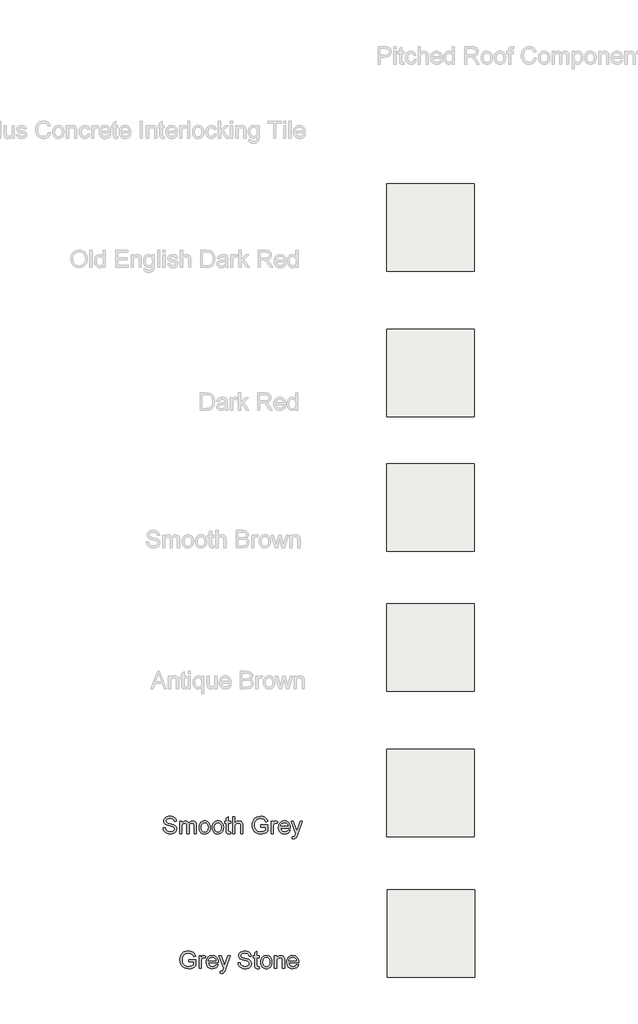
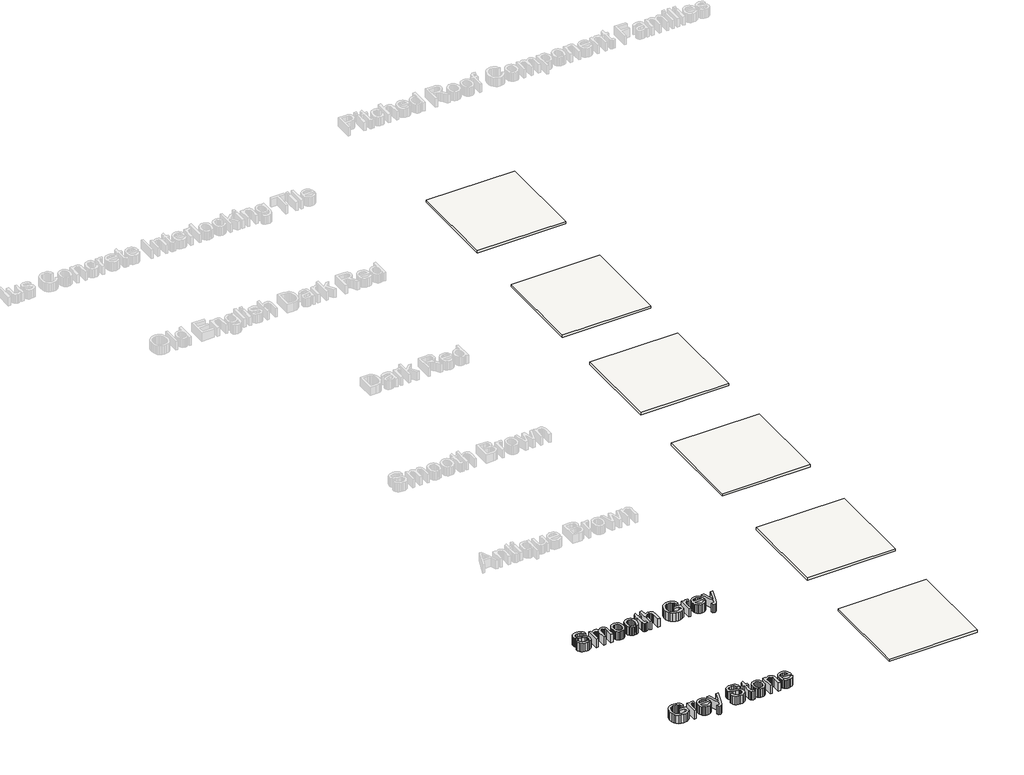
# One storey, part 1 of 5: 6 coverings, 2 proxies.
"""IFC4 building model written with IfcOpenShell, lengths in millimetres."""

from ifc_helpers import new_model, si_unit, frame, origin, place, context, project, spatial, polyline, outline, extrude, element, save

model = new_model("IFC4")

# Units and contexts
model_context = context("Model", 3, world=origin())
ifc_project = project(units=[si_unit("LENGTHUNIT", "METRE", prefix="MILLI")], contexts=[model_context])

# Site, building, storey
site = spatial("IfcSite", under=ifc_project)
building = spatial("IfcBuilding", under=site)
storey = spatial("IfcBuildingStorey", under=building, Name="Marley Concrete Interlocking Tile", Elevation=3000.0)

# Proxies
placement = place(None, origin())
element("IfcBuildingElementProxy", 1, Name="600mm Arial", ObjectType="600mm Arial", at=placement, inside=storey, context=model_context, shape_type="SweptSolid", body=[
    extrude(outline(polyline([(-15194.6531138, -5920.496364), (-15157.7300369, -5920.496364), (-15153.493258, -5940.9861476), (-15145.8309984, -5957.4554986), (-15133.8778734, -5970.5264121), (-15116.7684984, -5980.8208832), (-15095.8550369, -5987.5005707), (-15072.4896523, -5989.7271332), (-15051.9187388, -5988.0414361), (-15033.9079215, -5982.9843448), (-15019.3135705, -5974.9795371), (-15008.9920561, -5964.4506909), (-15002.853234, -5952.3623496), (-15000.80696, -5939.6790563), (-15002.3394119, -5927.3202823), (-15006.9367677, -5916.6381909), (-15016.27571, -5907.5246092), (-15032.0329215, -5899.871364), (-15085.7949407, -5885.7728063), (-15121.0864071, -5876.4428784), (-15143.6675369, -5867.5636717), (-15162.0479455, -5855.1417967), (-15175.0737869, -5840.0877101), (-15182.8352052, -5822.7259313), (-15185.4223446, -5803.3809794), (-15182.2222244, -5781.7553784), (-15172.6218638, -5761.590114), (-15156.8736667, -5744.4987678), (-15135.2300369, -5732.0949217), (-15109.2504696, -5724.5498496), (-15080.49446, -5722.0348255), (-15049.3406138, -5724.6670371), (-15022.0809984, -5732.5636717), (-14999.6891715, -5745.5624698), (-14983.1386907, -5763.5011717), (-14972.6639311, -5785.261989), (-14968.4992677, -5809.7271332), (-15005.4223446, -5809.7271332), (-15012.2011907, -5787.6958832), (-15026.3358061, -5771.7944409), (-15048.4211427, -5762.1670371), (-15079.0521523, -5758.9579025), (-15110.4043157, -5762.1309794), (-15131.9127292, -5771.6502101), (-15144.352633, -5785.6586236), (-15148.4992677, -5802.2992486), (-15145.5605657, -5816.4879505), (-15136.74446, -5827.9002101), (-15115.9031138, -5838.1045371), (-15076.4559984, -5848.5252101), (-15011.11946, -5867.058864), (-14990.0707821, -5880.4542967), (-14975.3862869, -5896.9867486), (-14966.759484, -5916.4759313), (-14963.883883, -5938.7415563), (-14967.1921763, -5961.5029746), (-14977.1170561, -5982.9122294), (-14993.2528734, -6001.3377101), (-15015.1939792, -6015.1478063), (-15041.5791955, -6023.7746092), (-15071.0473446, -6026.6502101), (-15107.2222244, -6023.5492486), (-15136.9968638, -6014.246364), (-15160.7138109, -5998.7054986), (-15178.7156138, -5976.8905948), (-15190.2721042, -5950.3160755), (-15194.6531138, -5920.496364)])), frame((0.0, 0.0, 3000.0), z_axis=(0.0, 0.0, 1.0), x_axis=(1.0, 0.0, 0.0)), (0.0, 0.0, 1.0), 150.0),
    extrude(outline(polyline([(-14913.1146523, -6022.0348255), (-14913.1146523, -5805.1117486), (-14876.1915753, -5805.1117486), (-14876.1915753, -5840.808864), (-14865.0858061, -5824.4116284), (-14850.80696, -5811.5660755), (-14833.8418157, -5803.2637919), (-14814.6771523, -5800.496364), (-14794.1422965, -5803.3178784), (-14777.68196, -5811.7824217), (-14765.3862869, -5825.3310996), (-14757.3454215, -5843.4050178), (-14743.8868878, -5824.6324818), (-14728.5353253, -5811.2235275), (-14711.290734, -5803.1781549), (-14692.1531138, -5800.496364), (-14664.3977052, -5804.9585034), (-14643.8718638, -5818.3449217), (-14631.1885705, -5841.0161957), (-14626.9608061, -5873.3329025), (-14626.9608061, -6022.0348255), (-14663.883883, -6022.0348255), (-14663.883883, -5889.1982871), (-14667.3093638, -5858.3689601), (-14672.1230657, -5849.8683592), (-14679.71321, -5843.1886717), (-14689.4758302, -5838.8617486), (-14700.80696, -5837.4194409), (-14720.8099648, -5841.1153544), (-14737.1170561, -5852.2030948), (-14747.9614071, -5871.4398736), (-14751.5761907, -5899.5829025), (-14751.5761907, -6022.0348255), (-14788.4992677, -6022.0348255), (-14788.4992677, -5885.0877101), (-14790.6356859, -5864.2103063), (-14797.0449407, -5849.3184794), (-14808.321984, -5840.3942005), (-14825.0617677, -5837.4194409), (-14839.2865273, -5839.402614), (-14852.3934984, -5845.3521332), (-14863.2108061, -5855.1237678), (-14870.5665753, -5868.5732871), (-14874.7853253, -5887.2331428), (-14876.1915753, -5912.6357871), (-14876.1915753, -6022.0348255), (-14913.1146523, -6022.0348255)])), frame((0.0, 0.0, 3000.0), z_axis=(0.0, 0.0, 1.0), x_axis=(1.0, 0.0, 0.0)), (0.0, 0.0, 1.0), 150.0),
    extrude(outline(polyline([(-14580.80696, -5913.5732871), (-14578.8102652, -5885.4798376), (-14572.8201811, -5861.2716044), (-14562.8367076, -5840.9485876), (-14548.8598446, -5824.5107871), (-14534.7883302, -5814.004477), (-14519.2564792, -5806.4999698), (-14502.2642917, -5801.9972654), (-14483.8117677, -5800.496364), (-14463.4414251, -5802.3240383), (-14445.0227052, -5807.8070611), (-14428.5556078, -5816.9454325), (-14414.040133, -5829.7391525), (-14402.1929275, -5845.7555287), (-14393.7306378, -5864.5618688), (-14388.653264, -5886.1581729), (-14386.9608061, -5910.5444409), (-14389.9535946, -5947.8461236), (-14398.93196, -5976.2415563), (-14413.634484, -5997.5065803), (-14433.7997484, -6013.4170371), (-14457.7510705, -6023.3419169), (-14483.8117677, -6026.6502101), (-14504.4795862, -6024.8292967), (-14523.0695802, -6019.3665563), (-14539.5817496, -6010.261989), (-14554.0160946, -5997.5155948), (-14565.7370982, -5981.3437198), (-14574.1092436, -5961.9627101), (-14579.1325309, -5939.3725659), (-14580.80696, -5913.5732871)]), holes=[polyline([(-14543.883883, -5913.5011717), (-14539.6110465, -5946.917638), (-14526.7925369, -5970.7247294), (-14507.5016715, -5984.9765323), (-14483.8117677, -5989.7271332), (-14460.2300369, -5984.949489), (-14440.9752292, -5970.6165563), (-14428.1567196, -5946.4939601), (-14423.883883, -5912.3473255), (-14428.1837628, -5879.9044169), (-14441.0834023, -5856.4218448), (-14460.3652532, -5842.1700419), (-14483.8117677, -5837.4194409), (-14507.5016715, -5842.152013), (-14526.7925369, -5856.3497294), (-14539.6110465, -5880.1027342), (-14543.883883, -5913.5011717)])]), frame((0.0, 0.0, 3000.0), z_axis=(0.0, 0.0, 1.0), x_axis=(1.0, 0.0, 0.0)), (0.0, 0.0, 1.0), 150.0),
    extrude(outline(polyline([(-14354.6531138, -5913.5732871), (-14352.6564191, -5885.4798376), (-14346.666335, -5861.2716044), (-14336.6828614, -5840.9485876), (-14322.7059984, -5824.5107871), (-14308.634484, -5814.004477), (-14293.102633, -5806.4999698), (-14276.1104455, -5801.9972654), (-14257.6579215, -5800.496364), (-14237.287579, -5802.3240383), (-14218.868859, -5807.8070611), (-14202.4017616, -5816.9454325), (-14187.8862869, -5829.7391525), (-14176.0390814, -5845.7555287), (-14167.5767917, -5864.5618688), (-14162.4994179, -5886.1581729), (-14160.80696, -5910.5444409), (-14163.7997484, -5947.8461236), (-14172.7781138, -5976.2415563), (-14187.4806378, -5997.5065803), (-14207.6459023, -6013.4170371), (-14231.5972244, -6023.3419169), (-14257.6579215, -6026.6502101), (-14278.32574, -6024.8292967), (-14296.915734, -6019.3665563), (-14313.4279035, -6010.261989), (-14327.8622484, -5997.5155948), (-14339.583252, -5981.3437198), (-14347.9553975, -5961.9627101), (-14352.9786847, -5939.3725659), (-14354.6531138, -5913.5732871)]), holes=[polyline([(-14317.7300369, -5913.5011717), (-14313.4572003, -5946.917638), (-14300.6386907, -5970.7247294), (-14281.3478253, -5984.9765323), (-14257.6579215, -5989.7271332), (-14234.0761907, -5984.949489), (-14214.821383, -5970.6165563), (-14202.0028734, -5946.4939601), (-14197.7300369, -5912.3473255), (-14202.0299167, -5879.9044169), (-14214.9295561, -5856.4218448), (-14234.2114071, -5842.1700419), (-14257.6579215, -5837.4194409), (-14281.3478253, -5842.152013), (-14300.6386907, -5856.3497294), (-14313.4572003, -5880.1027342), (-14317.7300369, -5913.5011717)])]), frame((0.0, 0.0, 3000.0), z_axis=(0.0, 0.0, 1.0), x_axis=(1.0, 0.0, 0.0)), (0.0, 0.0, 1.0), 150.0),
    extrude(outline(polyline([(-14040.80696, -5991.2415563), (-14036.1915753, -6023.1165563), (-14063.8117677, -6026.6502101), (-14081.5341234, -6025.1177582), (-14094.7492677, -6020.5204025), (-14104.08821, -6013.4350659), (-14110.18196, -6004.4386717), (-14113.5353253, -5988.9879505), (-14114.6531138, -5962.5396332), (-14114.6531138, -5842.0348255), (-14142.3454215, -5842.0348255), (-14142.3454215, -5805.1117486), (-14114.6531138, -5805.1117486), (-14114.6531138, -5752.3954025), (-14077.7300369, -5730.6886717), (-14077.7300369, -5805.1117486), (-14040.80696, -5805.1117486), (-14040.80696, -5842.0348255), (-14077.7300369, -5842.0348255), (-14077.7300369, -5961.4579025), (-14075.7829215, -5980.496364), (-14069.4728253, -5987.2391525), (-14056.8886907, -5989.7271332), (-14040.80696, -5991.2415563)])), frame((0.0, 0.0, 3000.0), z_axis=(0.0, 0.0, 1.0), x_axis=(1.0, 0.0, 0.0)), (0.0, 0.0, 1.0), 150.0),
    extrude(outline(polyline([(-14003.883883, -6022.0348255), (-14003.883883, -5726.6502101), (-13966.9608061, -5726.6502101), (-13966.9608061, -5835.2559794), (-13953.3986066, -5820.0486476), (-13938.1687388, -5809.1862678), (-13921.2712027, -5802.66884), (-13902.7059984, -5800.496364), (-13880.4043157, -5802.8671573), (-13861.2396523, -5809.9795371), (-13846.149508, -5821.2746092), (-13836.071383, -5836.1934794), (-13830.3922965, -5856.6922775), (-13828.4992677, -5884.7271332), (-13828.4992677, -6022.0348255), (-13865.4223446, -6022.0348255), (-13865.4223446, -5888.5492486), (-13868.3610465, -5865.4362678), (-13877.1771523, -5849.6069409), (-13891.383883, -5840.4663159), (-13910.49446, -5837.4194409), (-13926.0984263, -5839.4747294), (-13940.7468638, -5845.6405948), (-13952.8802773, -5855.3220851), (-13960.9391715, -5867.9242486), (-13965.4553975, -5884.6730467), (-13966.9608061, -5906.7944409), (-13966.9608061, -6022.0348255), (-14003.883883, -6022.0348255)])), frame((0.0, 0.0, 3000.0), z_axis=(0.0, 0.0, 1.0), x_axis=(1.0, 0.0, 0.0)), (0.0, 0.0, 1.0), 150.0),
    extrude(outline(polyline([(-13519.2684984, -5906.6502101), (-13519.2684984, -5869.7271332), (-13399.2684984, -5869.7271332), (-13399.2684984, -5980.1357871), (-13428.4301571, -6000.418239), (-13458.5112869, -6014.9675178), (-13489.4397725, -6023.7295371), (-13521.1434984, -6026.6502101), (-13562.5647725, -6022.0077823), (-13600.0016715, -6008.0804986), (-13631.1014311, -5985.355138), (-13653.5112869, -5954.3184794), (-13667.0599648, -5917.0889121), (-13671.5761907, -5875.7848255), (-13667.0779936, -5834.183263), (-13653.5834023, -5795.4843448), (-13631.6513109, -5763.0234073), (-13601.8406138, -5740.1357871), (-13565.5305177, -5726.5600659), (-13524.1002292, -5722.0348255), (-13493.6855657, -5724.6580226), (-13466.3358061, -5732.527614), (-13443.3039552, -5745.0756909), (-13425.8430177, -5761.7343448), (-13412.9253494, -5783.3058592), (-13403.5233061, -5810.5925178), (-13437.5617677, -5820.183864), (-13445.1609263, -5800.7217246), (-13454.40071, -5786.0372294), (-13466.6242677, -5774.9675178), (-13483.1747484, -5766.3497294), (-13502.9073205, -5760.8058592), (-13524.6771523, -5758.9579025), (-13550.1609263, -5760.95009), (-13571.9487869, -5766.9266525), (-13589.9596042, -5776.1393928), (-13604.1122484, -5787.840114), (-13623.1146523, -5816.2896332), (-13631.7684984, -5844.1622294), (-13634.6531138, -5874.2704025), (-13631.1825609, -5909.5798976), (-13620.7709023, -5938.6333832), (-13603.7336427, -5961.2235275), (-13580.3862869, -5977.1429986), (-13553.0635705, -5986.5810996), (-13524.1002292, -5989.7271332), (-13498.5263109, -5987.35634), (-13473.5834023, -5980.2439601), (-13451.9217436, -5970.4452823), (-13436.1915753, -5960.0155948), (-13436.1915753, -5906.6502101), (-13519.2684984, -5906.6502101)])), frame((0.0, 0.0, 3000.0), z_axis=(0.0, 0.0, 1.0), x_axis=(1.0, 0.0, 0.0)), (0.0, 0.0, 1.0), 150.0),
    extrude(outline(polyline([(-13343.883883, -6022.0348255), (-13343.883883, -5805.1117486), (-13311.5761907, -5805.1117486), (-13311.5761907, -5837.2030948), (-13299.6410946, -5818.5973255), (-13288.6434984, -5807.6357871), (-13277.6098446, -5802.2812198), (-13265.5665753, -5800.496364), (-13247.1771523, -5803.3449217), (-13228.4992677, -5811.8905948), (-13240.8309984, -5844.9915563), (-13253.8117677, -5839.3124698), (-13266.7925369, -5837.4194409), (-13277.8171763, -5839.2403544), (-13287.6699407, -5844.7030948), (-13295.6296763, -5853.3929986), (-13300.9752292, -5864.8954025), (-13305.4644119, -5885.5204025), (-13306.9608061, -5908.0204025), (-13306.9608061, -6022.0348255), (-13343.883883, -6022.0348255)])), frame((0.0, 0.0, 3000.0), z_axis=(0.0, 0.0, 1.0), x_axis=(1.0, 0.0, 0.0)), (0.0, 0.0, 1.0), 150.0),
    extrude(outline(polyline([(-13053.5473446, -5957.4194409), (-13017.3454215, -5962.0348255), (-13030.3892917, -5989.3124698), (-13051.2035946, -6009.7030948), (-13079.3195802, -6022.4134313), (-13114.2684984, -6026.6502101), (-13137.1786547, -6024.8225359), (-13157.5918157, -6019.339513), (-13175.5079816, -6010.2011416), (-13190.9271523, -5997.4074217), (-13203.3264912, -5981.3144229), (-13212.1831619, -5962.278215), (-13217.4971643, -5940.2987979), (-13219.2684984, -5915.3761717), (-13217.4791354, -5889.6084433), (-13212.1110465, -5866.8966044), (-13203.1642316, -5847.2406549), (-13190.6386907, -5830.6405948), (-13175.260085, -5817.4524938), (-13157.7540753, -5808.0324217), (-13138.1206619, -5802.3803784), (-13116.3598446, -5800.496364), (-13095.2998987, -5802.3758712), (-13076.2546763, -5808.0143928), (-13059.2241775, -5817.4119289), (-13044.2084023, -5830.5684794), (-13031.9510405, -5847.1324818), (-13023.1957821, -5866.7523736), (-13017.942627, -5889.4281549), (-13016.1915753, -5915.1598255), (-13016.4079215, -5925.1117486), (-13182.3454215, -5925.1117486), (-13175.9541955, -5952.7499698), (-13161.1074407, -5973.0684794), (-13139.6801571, -5985.5624698), (-13113.5473446, -5989.7271332), (-13093.8959023, -5987.7980467), (-13077.3454215, -5982.0107871), (-13063.8959023, -5972.0047775), (-13053.5473446, -5957.4194409)]), holes=[polyline([(-13182.3454215, -5888.1886717), (-13053.1146523, -5888.1886717), (-13058.1086427, -5868.6814601), (-13067.8983061, -5854.7271332), (-13089.4247484, -5841.746364), (-13116.5040753, -5837.4194409), (-13141.3928975, -5840.871965), (-13161.9728253, -5851.2295371), (-13176.2787148, -5867.3743688), (-13182.3454215, -5888.1886717)])]), frame((0.0, 0.0, 3000.0), z_axis=(0.0, 0.0, 1.0), x_axis=(1.0, 0.0, 0.0)), (0.0, 0.0, 1.0), 150.0),
    extrude(outline(polyline([(-12979.2684984, -6105.1117486), (-12983.883883, -6069.558864), (-12965.133883, -6072.8040563), (-12947.6098446, -6068.7295371), (-12936.8646523, -6057.371364), (-12926.7684984, -6030.183864), (-12923.883883, -6021.2415563), (-13002.3454215, -5805.1117486), (-12963.4031138, -5805.1117486), (-12921.7925369, -5925.5444409), (-12907.2973446, -5973.7175178), (-12892.8021523, -5931.1694409), (-12850.0377292, -5805.1117486), (-12811.383883, -5805.1117486), (-12886.8886907, -6027.2271332), (-12906.5040753, -6075.4002101), (-12916.5461427, -6090.7788159), (-12927.9223446, -6101.433864), (-12941.1374888, -6107.6538159), (-12956.696383, -6109.7271332), (-12979.2684984, -6105.1117486)])), frame((0.0, 0.0, 3000.0), z_axis=(0.0, 0.0, 1.0), x_axis=(1.0, 0.0, 0.0)), (0.0, 0.0, 1.0), 150.0),
])
element("IfcBuildingElementProxy", 2, Name="600mm Arial", ObjectType="600mm Arial", at=placement, inside=storey, context=model_context, shape_type="SweptSolid", body=[
    extrude(outline(polyline([(-14756.8130889, -8214.4015212), (-14756.8130889, -8177.4784443), (-14636.8130889, -8177.4784443), (-14636.8130889, -8287.8870982), (-14665.9747476, -8308.1695501), (-14696.0558774, -8322.7188289), (-14726.9843629, -8331.4808482), (-14758.6880889, -8334.4015212), (-14800.1093629, -8329.7590934), (-14837.546262, -8315.8318097), (-14868.6460216, -8293.1064491), (-14891.0558774, -8262.0697905), (-14904.6045552, -8224.8402232), (-14909.1207812, -8183.5361366), (-14904.6225841, -8141.9345741), (-14891.1279927, -8103.2356559), (-14869.1959014, -8070.7747184), (-14839.3852043, -8047.8870982), (-14803.0751081, -8034.311377), (-14761.6448197, -8029.7861366), (-14731.2301562, -8032.4093337), (-14703.8803966, -8040.2789251), (-14680.8485456, -8052.827002), (-14663.3876081, -8069.4856559), (-14650.4699399, -8091.0571703), (-14641.0678966, -8118.3438289), (-14675.1063581, -8127.9351751), (-14682.7055168, -8108.4730357), (-14691.9453004, -8093.7885405), (-14704.1688581, -8082.7188289), (-14720.7193389, -8074.1010405), (-14740.451911, -8068.5571703), (-14762.2217427, -8066.7092135), (-14787.7055168, -8068.701401), (-14809.4933774, -8074.6779635), (-14827.5041947, -8083.8907039), (-14841.6568389, -8095.5914251), (-14860.6592427, -8124.0409443), (-14869.3130889, -8151.9135405), (-14872.1977043, -8182.0217135), (-14868.7271514, -8217.3312087), (-14858.3154927, -8246.3846943), (-14841.2782331, -8268.9748385), (-14817.9308774, -8284.8943097), (-14790.608161, -8294.3324107), (-14761.6448197, -8297.4784443), (-14736.0709014, -8295.107651), (-14711.1279927, -8287.9952712), (-14689.4663341, -8278.1965934), (-14673.7361658, -8267.7669059), (-14673.7361658, -8214.4015212), (-14756.8130889, -8214.4015212)])), frame((0.0, 0.0, 3000.0), z_axis=(0.0, 0.0, 1.0), x_axis=(1.0, 0.0, 0.0)), (0.0, 0.0, 1.0), 150.0),
    extrude(outline(polyline([(-14581.4284735, -8329.7861366), (-14581.4284735, -8112.8630597), (-14549.1207812, -8112.8630597), (-14549.1207812, -8144.9544059), (-14537.1856851, -8126.3486366), (-14526.1880889, -8115.3870982), (-14515.1544351, -8110.0325309), (-14503.1111658, -8108.2476751), (-14484.7217427, -8111.0962328), (-14466.0438581, -8119.6419059), (-14478.3755889, -8152.7428674), (-14491.3563581, -8147.0637809), (-14504.3371274, -8145.170752), (-14515.3617668, -8146.9916655), (-14525.2145312, -8152.4544059), (-14533.1742668, -8161.1443097), (-14538.5198197, -8172.6467135), (-14543.0090024, -8193.2717135), (-14544.5053966, -8215.7717135), (-14544.5053966, -8329.7861366), (-14581.4284735, -8329.7861366)])), frame((0.0, 0.0, 3000.0), z_axis=(0.0, 0.0, 1.0), x_axis=(1.0, 0.0, 0.0)), (0.0, 0.0, 1.0), 150.0),
    extrude(outline(polyline([(-14291.0919351, -8265.170752), (-14254.890012, -8269.7861366), (-14267.9338822, -8297.0637809), (-14288.7481851, -8317.4544059), (-14316.8641706, -8330.1647424), (-14351.8130889, -8334.4015212), (-14374.7232452, -8332.573847), (-14395.1364062, -8327.0908241), (-14413.0525721, -8317.9524527), (-14428.4717427, -8305.1587328), (-14440.8710817, -8289.065734), (-14449.7277524, -8270.029526), (-14455.0417548, -8248.050109), (-14456.8130889, -8223.1274828), (-14455.0237259, -8197.3597544), (-14449.655637, -8174.6479155), (-14440.7088221, -8154.991966), (-14428.1832812, -8138.3919059), (-14412.8046754, -8125.2038049), (-14395.2986658, -8115.7837328), (-14375.6652524, -8110.1316895), (-14353.9044351, -8108.2476751), (-14332.8444891, -8110.1271823), (-14313.7992668, -8115.7657039), (-14296.768768, -8125.16324), (-14281.7529927, -8138.3197905), (-14269.495631, -8154.8837929), (-14260.7403726, -8174.5036847), (-14255.4872175, -8197.179466), (-14253.7361658, -8222.9111366), (-14253.952512, -8232.8630597), (-14419.890012, -8232.8630597), (-14413.498786, -8260.5012809), (-14398.6520312, -8280.8197905), (-14377.2247476, -8293.3137809), (-14351.0919351, -8297.4784443), (-14331.4404927, -8295.5493578), (-14314.890012, -8289.7620982), (-14301.4404927, -8279.7560885), (-14291.0919351, -8265.170752)]), holes=[polyline([(-14419.890012, -8195.9399828), (-14290.6592427, -8195.9399828), (-14295.6532331, -8176.4327712), (-14305.4428966, -8162.4784443), (-14326.9693389, -8149.4976751), (-14354.0486658, -8145.170752), (-14378.9374879, -8148.623276), (-14399.5174158, -8158.9808482), (-14413.8233052, -8175.1256799), (-14419.890012, -8195.9399828)])]), frame((0.0, 0.0, 3000.0), z_axis=(0.0, 0.0, 1.0), x_axis=(1.0, 0.0, 0.0)), (0.0, 0.0, 1.0), 150.0),
    extrude(outline(polyline([(-14216.8130889, -8412.8630597), (-14221.4284735, -8377.3101751), (-14202.6784735, -8380.5553674), (-14185.1544351, -8376.4808482), (-14174.4092427, -8365.1226751), (-14164.3130889, -8337.9351751), (-14161.4284735, -8328.9928674), (-14239.890012, -8112.8630597), (-14200.9477043, -8112.8630597), (-14159.3371274, -8233.295752), (-14144.8419351, -8281.4688289), (-14130.3467427, -8238.920752), (-14087.5823197, -8112.8630597), (-14048.9284735, -8112.8630597), (-14124.4332812, -8334.9784443), (-14144.0486658, -8383.1515212), (-14154.0907331, -8398.530127), (-14165.4669351, -8409.1851751), (-14178.6820793, -8415.405127), (-14194.2409735, -8417.4784443), (-14216.8130889, -8412.8630597)])), frame((0.0, 0.0, 3000.0), z_axis=(0.0, 0.0, 1.0), x_axis=(1.0, 0.0, 0.0)), (0.0, 0.0, 1.0), 150.0),
    extrude(outline(polyline([(-13912.1977043, -8228.2476751), (-13875.2746274, -8228.2476751), (-13871.0378485, -8248.7374587), (-13863.3755889, -8265.2068097), (-13851.4224639, -8278.2777232), (-13834.3130889, -8288.5721943), (-13813.3996274, -8295.2518818), (-13790.0342427, -8297.4784443), (-13769.4633293, -8295.7927472), (-13751.452512, -8290.7356559), (-13736.858161, -8282.7308482), (-13726.5366466, -8272.202002), (-13720.3978245, -8260.1136607), (-13718.3515504, -8247.4303674), (-13719.8840024, -8235.0715934), (-13724.4813581, -8224.389502), (-13733.8203004, -8215.2759203), (-13749.577512, -8207.6226751), (-13803.3395312, -8193.5241174), (-13838.6309976, -8184.1941895), (-13861.2121274, -8175.3149828), (-13879.592536, -8162.8931078), (-13892.6183774, -8147.8390212), (-13900.3797956, -8130.4772424), (-13902.9669351, -8111.1322905), (-13899.7668149, -8089.5066895), (-13890.1664543, -8069.3414251), (-13874.4182572, -8052.2500789), (-13852.7746274, -8039.8462328), (-13826.7950601, -8032.3011607), (-13798.0390504, -8029.7861366), (-13766.8852043, -8032.4183482), (-13739.6255889, -8040.3149828), (-13717.233762, -8053.3137809), (-13700.6832812, -8071.2524828), (-13690.2085216, -8093.0133001), (-13686.0438581, -8117.4784443), (-13722.9669351, -8117.4784443), (-13729.7457812, -8095.4471943), (-13743.8803966, -8079.545752), (-13765.9657331, -8069.9183482), (-13796.5967427, -8066.7092135), (-13827.9489062, -8069.8822905), (-13849.4573197, -8079.4015212), (-13861.8972235, -8093.4099347), (-13866.0438581, -8110.0505597), (-13863.1051562, -8124.2392616), (-13854.2890504, -8135.6515212), (-13833.4477043, -8145.8558482), (-13794.0005889, -8156.2765212), (-13728.6640504, -8174.8101751), (-13707.6153726, -8188.2056078), (-13692.9308774, -8204.7380597), (-13684.3040745, -8224.2272424), (-13681.4284735, -8246.4928674), (-13684.7367668, -8269.2542857), (-13694.6616466, -8290.6635405), (-13710.7974639, -8309.0890212), (-13732.7385697, -8322.8991174), (-13759.123786, -8331.5259203), (-13788.5919351, -8334.4015212), (-13824.7668149, -8331.3005597), (-13854.5414543, -8321.9976751), (-13878.2584014, -8306.4568097), (-13896.2602043, -8284.6419059), (-13907.8166947, -8258.0673866), (-13912.1977043, -8228.2476751)])), frame((0.0, 0.0, 3000.0), z_axis=(0.0, 0.0, 1.0), x_axis=(1.0, 0.0, 0.0)), (0.0, 0.0, 1.0), 150.0),
    extrude(outline(polyline([(-13552.1977043, -8298.9928674), (-13547.5823197, -8330.8678674), (-13575.202512, -8334.4015212), (-13592.9248677, -8332.8690693), (-13606.140012, -8328.2717135), (-13615.4789543, -8321.186377), (-13621.5727043, -8312.1899828), (-13624.9260697, -8296.7392616), (-13626.0438581, -8270.2909443), (-13626.0438581, -8149.7861366), (-13653.7361658, -8149.7861366), (-13653.7361658, -8112.8630597), (-13626.0438581, -8112.8630597), (-13626.0438581, -8060.1467135), (-13589.1207812, -8038.4399828), (-13589.1207812, -8112.8630597), (-13552.1977043, -8112.8630597), (-13552.1977043, -8149.7861366), (-13589.1207812, -8149.7861366), (-13589.1207812, -8269.2092135), (-13587.1736658, -8288.2476751), (-13580.8635697, -8294.9904635), (-13568.2794351, -8297.4784443), (-13552.1977043, -8298.9928674)])), frame((0.0, 0.0, 3000.0), z_axis=(0.0, 0.0, 1.0), x_axis=(1.0, 0.0, 0.0)), (0.0, 0.0, 1.0), 150.0),
    extrude(outline(polyline([(-13524.5053966, -8221.3245982), (-13522.5087019, -8193.2311486), (-13516.5186177, -8169.0229155), (-13506.5351442, -8148.6998986), (-13492.5582812, -8132.2620982), (-13478.4867668, -8121.7557881), (-13462.9549158, -8114.2512809), (-13445.9627283, -8109.7485765), (-13427.5102043, -8108.2476751), (-13407.1398617, -8110.0753494), (-13388.7211418, -8115.5583722), (-13372.2540444, -8124.6967436), (-13357.7385697, -8137.4904635), (-13345.8913641, -8153.5068398), (-13337.4290745, -8172.3131799), (-13332.3517007, -8193.909484), (-13330.6592427, -8218.295752), (-13333.6520312, -8255.5974347), (-13342.6303966, -8283.9928674), (-13357.3329206, -8305.2578914), (-13377.4981851, -8321.1683482), (-13401.4495072, -8331.093228), (-13427.5102043, -8334.4015212), (-13448.1780228, -8332.5806078), (-13466.7680168, -8327.1178674), (-13483.2801863, -8318.0133001), (-13497.7145312, -8305.2669059), (-13509.4355348, -8289.0950309), (-13517.8076802, -8269.7140212), (-13522.8309675, -8247.123877), (-13524.5053966, -8221.3245982)]), holes=[polyline([(-13487.5823197, -8221.2524828), (-13483.3094831, -8254.6689491), (-13470.4909735, -8278.4760405), (-13451.2001081, -8292.7278434), (-13427.5102043, -8297.4784443), (-13403.9284735, -8292.7008001), (-13384.6736658, -8278.3678674), (-13371.8551562, -8254.2452712), (-13367.5823197, -8220.0986366), (-13371.8821995, -8187.655728), (-13384.7818389, -8164.1731559), (-13404.0636899, -8149.921353), (-13427.5102043, -8145.170752), (-13451.2001081, -8149.9033241), (-13470.4909735, -8164.1010405), (-13483.3094831, -8187.8540453), (-13487.5823197, -8221.2524828)])]), frame((0.0, 0.0, 3000.0), z_axis=(0.0, 0.0, 1.0), x_axis=(1.0, 0.0, 0.0)), (0.0, 0.0, 1.0), 150.0),
    extrude(outline(polyline([(-13289.1207812, -8329.7861366), (-13289.1207812, -8112.8630597), (-13252.1977043, -8112.8630597), (-13252.1977043, -8143.1515212), (-13239.3701802, -8127.8810885), (-13223.9645312, -8116.9736366), (-13205.9807572, -8110.4291655), (-13185.4188581, -8108.2476751), (-13167.2187379, -8110.0054876), (-13150.5510697, -8115.2789251), (-13136.6508293, -8123.4099347), (-13126.7529927, -8133.7404635), (-13115.6832812, -8160.8919059), (-13113.7361658, -8196.5890212), (-13113.7361658, -8329.7861366), (-13150.6592427, -8329.7861366), (-13150.6592427, -8201.5649828), (-13154.9140504, -8168.8967135), (-13160.8004687, -8159.170151), (-13169.9501081, -8151.6250789), (-13181.6778726, -8146.7843337), (-13195.2986658, -8145.170752), (-13216.9242668, -8148.7945501), (-13235.358762, -8159.6659443), (-13242.7257992, -8168.5406438), (-13247.9879687, -8180.6695501), (-13252.1977043, -8214.6899828), (-13252.1977043, -8329.7861366), (-13289.1207812, -8329.7861366)])), frame((0.0, 0.0, 3000.0), z_axis=(0.0, 0.0, 1.0), x_axis=(1.0, 0.0, 0.0)), (0.0, 0.0, 1.0), 150.0),
    extrude(outline(polyline([(-12911.0919351, -8265.170752), (-12874.890012, -8269.7861366), (-12887.9338822, -8297.0637809), (-12908.7481851, -8317.4544059), (-12936.8641706, -8330.1647424), (-12971.8130889, -8334.4015212), (-12994.7232452, -8332.573847), (-13015.1364062, -8327.0908241), (-13033.0525721, -8317.9524527), (-13048.4717427, -8305.1587328), (-13060.8710817, -8289.065734), (-13069.7277524, -8270.029526), (-13075.0417548, -8248.050109), (-13076.8130889, -8223.1274828), (-13075.0237259, -8197.3597544), (-13069.655637, -8174.6479155), (-13060.7088221, -8154.991966), (-13048.1832812, -8138.3919059), (-13032.8046754, -8125.2038049), (-13015.2986658, -8115.7837328), (-12995.6652524, -8110.1316895), (-12973.9044351, -8108.2476751), (-12952.8444891, -8110.1271823), (-12933.7992668, -8115.7657039), (-12916.768768, -8125.16324), (-12901.7529927, -8138.3197905), (-12889.495631, -8154.8837929), (-12880.7403726, -8174.5036847), (-12875.4872175, -8197.179466), (-12873.7361658, -8222.9111366), (-12873.952512, -8232.8630597), (-13039.890012, -8232.8630597), (-13033.498786, -8260.5012809), (-13018.6520312, -8280.8197905), (-12997.2247476, -8293.3137809), (-12971.0919351, -8297.4784443), (-12951.4404927, -8295.5493578), (-12934.890012, -8289.7620982), (-12921.4404927, -8279.7560885), (-12911.0919351, -8265.170752)]), holes=[polyline([(-13039.890012, -8195.9399828), (-12910.6592427, -8195.9399828), (-12915.6532331, -8176.4327712), (-12925.4428966, -8162.4784443), (-12946.9693389, -8149.4976751), (-12974.0486658, -8145.170752), (-12998.9374879, -8148.623276), (-13019.5174158, -8158.9808482), (-13033.8233052, -8175.1256799), (-13039.890012, -8195.9399828)])]), frame((0.0, 0.0, 3000.0), z_axis=(0.0, 0.0, 1.0), x_axis=(1.0, 0.0, 0.0)), (0.0, 0.0, 1.0), 150.0),
])

# Coverings
element("IfcCovering", 3, ObjectType="Marley_ConcreteInterlockingTile-LudlowPlusOEDR", at=placement, inside=storey, context=model_context, shape_type="SweptSolid", body=[
    extrude(outline(polyline([(-11360.9165484, 3623.2865063), (-11360.9165484, 5123.2865063), (-9860.9165484, 5123.2865063), (-9860.9165484, 3623.2865063), (-11360.9165484, 3623.2865063)])), frame((0.0, 0.0, 3000.0), z_axis=(0.0, 0.0, 1.0), x_axis=(1.0, 0.0, 0.0)), (0.0, 0.0, 1.0), 40.0),
])
element("IfcCovering", 4, ObjectType="Marley_ConcreteInterlockingTile-LudlowPlusDarkRed", at=placement, inside=storey, context=model_context, shape_type="SweptSolid", body=[
    extrude(outline(polyline([(-11360.9165484, 1123.2865063), (-11360.9165484, 2623.2865063), (-9860.9165484, 2623.2865063), (-9860.9165484, 1123.2865063), (-11360.9165484, 1123.2865063)])), frame((0.0, 0.0, 3000.0), z_axis=(0.0, 0.0, 1.0), x_axis=(1.0, 0.0, 0.0)), (0.0, 0.0, 1.0), 40.0),
])
element("IfcCovering", 5, ObjectType="Marley_ConcreteInterlockingTile-LudlowPlusSmoothBrown", at=placement, inside=storey, context=model_context, shape_type="SweptSolid", body=[
    extrude(outline(polyline([(-11360.9165484, -1176.7134937), (-11360.9165484, 323.2865063), (-9860.9165484, 323.2865063), (-9860.9165484, -1176.7134937), (-11360.9165484, -1176.7134937)])), frame((0.0, 0.0, 3000.0), z_axis=(0.0, 0.0, 1.0), x_axis=(1.0, 0.0, 0.0)), (0.0, 0.0, 1.0), 40.0),
])
element("IfcCovering", 6, ObjectType="Marley_ConcreteInterlockingTile-LudlowPlusAntiqueBrown", at=placement, inside=storey, context=model_context, shape_type="SweptSolid", body=[
    extrude(outline(polyline([(-11360.9165484, -3576.7134937), (-11360.9165484, -2076.7134937), (-9860.9165484, -2076.7134937), (-9860.9165484, -3576.7134937), (-11360.9165484, -3576.7134937)])), frame((0.0, 0.0, 3000.0), z_axis=(0.0, 0.0, 1.0), x_axis=(1.0, 0.0, 0.0)), (0.0, 0.0, 1.0), 40.0),
])
element("IfcCovering", 7, ObjectType="Marley_ConcreteInterlockingTile-LudlowPlusSmoothGrey", at=placement, inside=storey, context=model_context, shape_type="SweptSolid", body=[
    extrude(outline(polyline([(-11360.9165484, -6076.7134937), (-11360.9165484, -4576.7134937), (-9860.9165484, -4576.7134937), (-9860.9165484, -6076.7134937), (-11360.9165484, -6076.7134937)])), frame((0.0, 0.0, 3000.0), z_axis=(0.0, 0.0, 1.0), x_axis=(1.0, 0.0, 0.0)), (0.0, 0.0, 1.0), 40.0),
])
element("IfcCovering", 8, ObjectType="Marley_ConcreteInterlockingTile-LudlowPlusGreyStone", at=placement, inside=storey, context=model_context, shape_type="SweptSolid", body=[
    extrude(outline(polyline([(-11357.5660067, -8484.2376733), (-11357.5660067, -6984.2376733), (-9857.5660067, -6984.2376733), (-9857.5660067, -8484.2376733), (-11357.5660067, -8484.2376733)])), frame((0.0, 0.0, 3000.0), z_axis=(0.0, 0.0, 1.0), x_axis=(1.0, 0.0, 0.0)), (0.0, 0.0, 1.0), 40.0),
])

save(model, "model.ifc")
